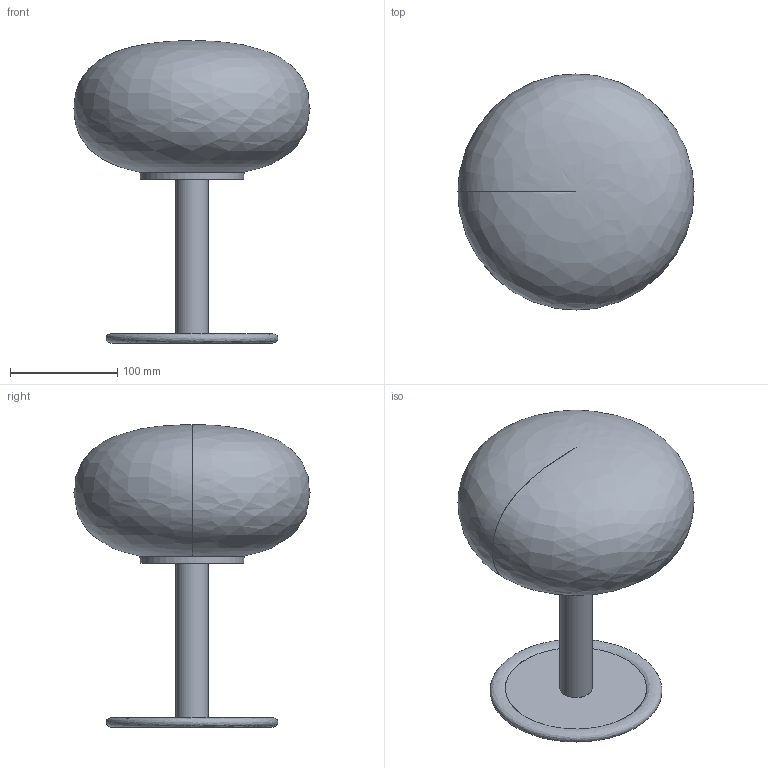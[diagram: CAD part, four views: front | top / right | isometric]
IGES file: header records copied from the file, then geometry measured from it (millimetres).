
Global section: file name: /Users/064_p/Desktop/3d data_02/ILKW_SNOWBALL22_V2_Table_3D.igs; native system: Rhinoceros ( Jul  7 2025 ); preprocessor: Trout Lake IGES 012 Jul  7 2025; date: 260828.082258; units: millimetre
Bounding box: 220 x 220 x 282 mm (x, y, z)
Surface area: 176104.6 mm2 (no closed solid volume)
Topology: 0 solids, 0 shells, 8 faces, 36 edges, 30 vertices
Faces by surface type: bspline 8
